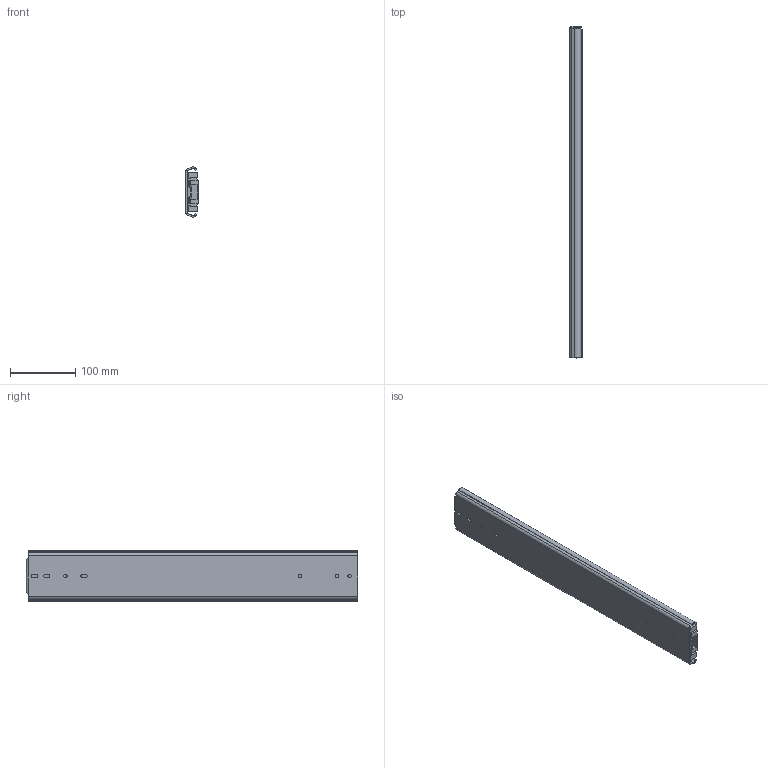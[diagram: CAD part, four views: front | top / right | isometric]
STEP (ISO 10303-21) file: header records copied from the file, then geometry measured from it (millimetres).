
FILE_DESCRIPTION(/* description */ ('Unknown'),/* implementation_level */ '2;1');
FILE_NAME(/* name */ '76J01-20 close',/* time_stamp */ '2024-07-26T15:37:14+08:00',/* author */ ('Unknown'),/* organization */ ('Unknown'),/* preprocessor_version */ 'ST-DEVELOPER v18.104',/* originating_system */ 'Solid Edge',/* authorisation */ 'Unknown');
FILE_SCHEMA (('AUTOMOTIVE_DESIGN {1 0 10303 214 3 1 1}'));
Length unit declared in the file: millimetre
Products named in the file (4): 76J01-20 close; 76J01 20 inch 內 ; 76J01 20 吋; 76J01 20 ¦T æ?
Assembly tree (3 placements, depth 2):
  76J01-20 close
    76J01 20 inch 內 
    76J01 20 吋
    76J01 20 ¦T æ?
Bounding box: 19.3 x 508 x 76.76 mm (x, y, z)
Volume: 394523.1 mm3; surface area: 246537.3 mm2
Topology: 3 solids, 3 shells, 188 faces, 575 edges, 387 vertices
Faces by surface type: plane 104, cylinder 84
Full cylindrical faces by diameter (mm): 5.2 x9, 7.1 x2
Entity records: 6871 total; most frequent: CARTESIAN_POINT 1124, ORIENTED_EDGE 1106, DIRECTION 1105, EDGE_CURVE 553, LINE 383, VECTOR 383, VERTEX_POINT 376, AXIS2_PLACEMENT_3D 361
